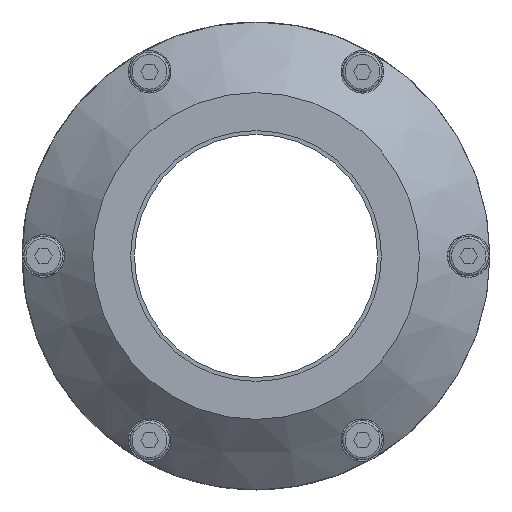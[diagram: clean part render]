
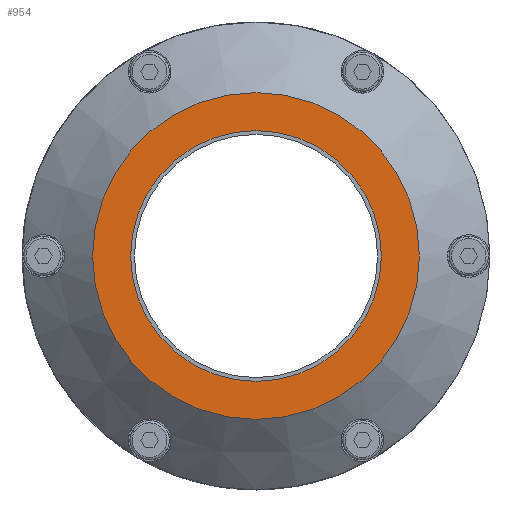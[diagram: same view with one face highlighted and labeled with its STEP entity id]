
A CAD part, left-side view. The second image highlights one B-rep face of the part: STEP entity #954.
In plain terms, the highlighted planar face has unit normal (-1, 0, 0).
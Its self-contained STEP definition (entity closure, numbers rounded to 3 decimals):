
#405=FACE_BOUND('',#1889,.T.);
#406=FACE_BOUND('',#1890,.T.);
#689=PLANE('',#7011);
#954=ADVANCED_FACE('',(#405,#406),#689,.T.);
#1889=EDGE_LOOP('',(#2945));
#1890=EDGE_LOOP('',(#2946));
#2503=CIRCLE('',#7009,41.275);
#2504=CIRCLE('',#7010,53.761);
#2945=ORIENTED_EDGE('',*,*,#5354,.T.);
#2946=ORIENTED_EDGE('',*,*,#5355,.T.);
#4743=VERTEX_POINT('',#9720);
#4744=VERTEX_POINT('',#9722);
#5354=EDGE_CURVE('',#4743,#4743,#2503,.T.);
#5355=EDGE_CURVE('',#4744,#4744,#2504,.T.);
#7009=AXIS2_PLACEMENT_3D('',#9719,#7837,#7838);
#7010=AXIS2_PLACEMENT_3D('',#9721,#7839,#7840);
#7011=AXIS2_PLACEMENT_3D('',#9723,#7841,#7842);
#7837=DIRECTION('',(1.,0.,0.));
#7838=DIRECTION('',(0.,0.866,-0.5));
#7839=DIRECTION('',(-1.,0.,0.));
#7840=DIRECTION('',(0.,-0.866,0.5));
#7841=DIRECTION('',(-1.,0.,0.));
#7842=DIRECTION('',(0.,-0.866,0.5));
#9719=CARTESIAN_POINT('',(-145.,0.,0.));
#9720=CARTESIAN_POINT('',(-145.,35.745,-20.637));
#9721=CARTESIAN_POINT('',(-145.,0.,0.));
#9722=CARTESIAN_POINT('',(-145.,-46.558,26.88));
#9723=CARTESIAN_POINT('',(-145.,0.,0.));
